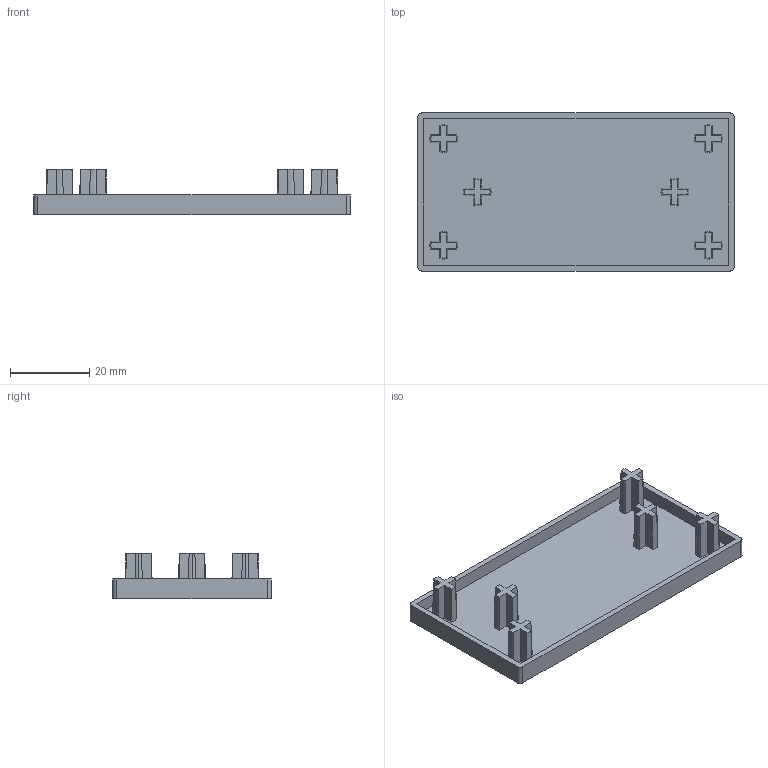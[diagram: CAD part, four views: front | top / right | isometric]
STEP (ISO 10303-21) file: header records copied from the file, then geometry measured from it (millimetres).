
FILE_DESCRIPTION (( 'STEP AP203' ), '1' );
FILE_NAME ('EC4080-8.STEP', '2024-02-19T05:54:29', ( '' ), ( '' ), 'SwSTEP 2.0', 'SolidWorks 2022', '' );
FILE_SCHEMA (( 'CONFIG_CONTROL_DESIGN' ));
Length unit declared in the file: millimetre
Products named in the file (1): EC4080-8
Bounding box: 80 x 40 x 11.5 mm (x, y, z)
Volume: 7229 mm3; surface area: 9901.3 mm2
Topology: 1 solids, 1 shells, 99 faces, 270 edges, 180 vertices
Faces by surface type: plane 65, cone 30, cylinder 4
Entity records: 3401 total; most frequent: CARTESIAN_POINT 838, ORIENTED_EDGE 540, DIRECTION 490, EDGE_CURVE 270, VERTEX_POINT 180, AXIS2_PLACEMENT_3D 168, VECTOR 154, LINE 154
